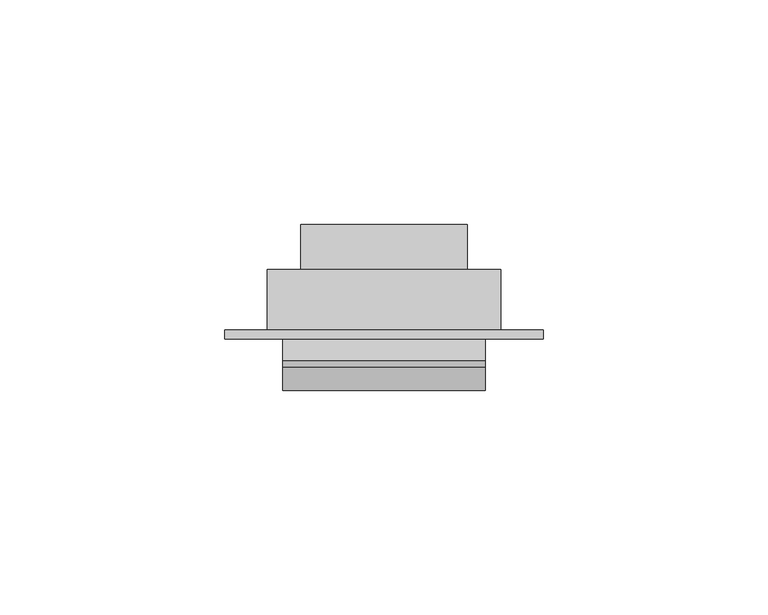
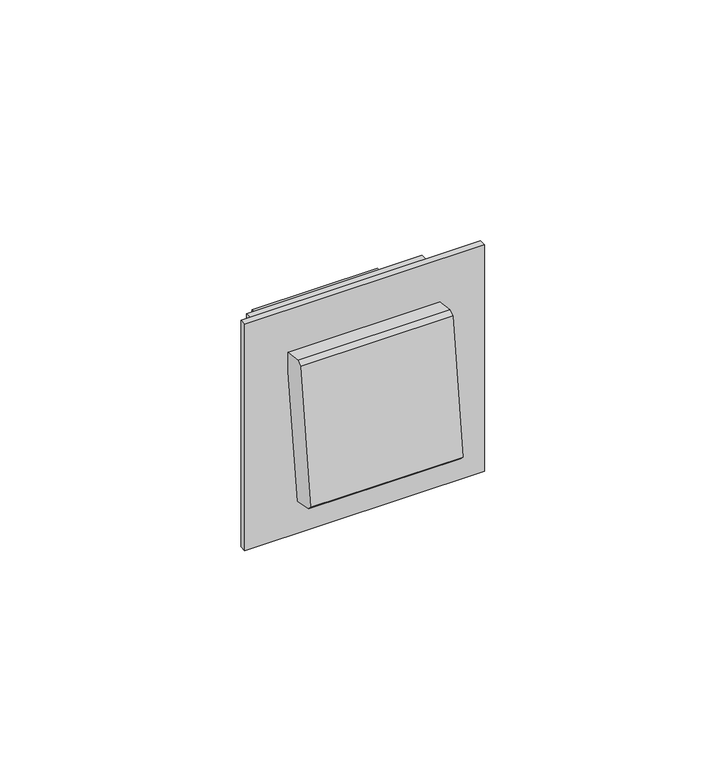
"""IFC4 building model written with IfcOpenShell, lengths in millimetres: proxy geometry."""

from ifc_helpers import new_model, si_unit, frame, origin, place, context, project, spatial, polyline, outline, extrude, faceted_brep, source, transform, mapped, element, save


def electrical_fixtures_08b576f3(model_context):
    return source(origin(), model_context, "Body", "SolidModel", [
        extrude(outline(polyline([(-46.907742, -20.7286385), (-48.1, -19.5363805), (-42.9449262, 21.5328885), (-41.5637479, 22.5), (-35.7515369, 21.7704429), (-41.2121425, -21.7329264), (-46.907742, -20.7286385)])), frame((-22.5, 0.0, 0.0), z_axis=(1.0, 0.0, 0.0), x_axis=(0.0, 1.0, 0.0)), (0.0, 0.0, 1.0), 45.0),
        faceted_brep([(35.45, -34.7, -35.45), (-35.45, -34.7, -35.45), (-35.45, -34.7, 35.45), (35.45, -34.7, 35.45), (-26.0, -34.7, -26.0), (26.0, -34.7, -26.0), (26.0, -34.7, 26.0), (-26.0, -34.7, 26.0), (35.45, -36.7, -35.45), (35.45, -36.7, 35.45), (-35.45, -36.7, 35.45), (-35.45, -36.7, -35.45), (26.0, -21.2, -26.0), (-26.0, -21.2, -26.0), (-26.0, -21.2, 26.0), (26.0, -21.2, 26.0), (-18.5, -21.2, -18.5), (18.5, -21.2, -18.5), (18.5, -21.2, 18.5), (-18.5, -21.2, 18.5), (18.5, -11.2, -18.5), (-18.5, -11.2, -18.5), (-18.5, -11.2, 18.5), (18.5, -11.2, 18.5)], [[[0, 1, 2, 3], [4, 5, 6, 7]], [[8, 9, 10, 11]], [[1, 0, 8, 11]], [[2, 1, 11, 10]], [[3, 2, 10, 9]], [[0, 3, 9, 8]], [[12, 13, 14, 15], [16, 17, 18, 19]], [[13, 12, 5, 4]], [[14, 13, 4, 7]], [[15, 14, 7, 6]], [[12, 15, 6, 5]], [[20, 21, 22, 23]], [[21, 20, 17, 16]], [[22, 21, 16, 19]], [[23, 22, 19, 18]], [[20, 23, 18, 17]]]),
    ])


if __name__ == "__main__":
    model = new_model("IFC4")
    model_context = context("Model", 3, world=origin())
    ifc_project = project(units=[si_unit("LENGTHUNIT", "METRE", prefix="MILLI")], contexts=[model_context])
    site = spatial("IfcSite", under=ifc_project)
    building = spatial("IfcBuilding", under=site)
    placement = place(None, origin())
    electrical_fixtures_shape = electrical_fixtures_08b576f3(model_context)
    element("IfcBuildingElementProxy", 1, Name="Electrical Fixtures", at=placement, inside=building, context=model_context, shape_type="MappedRepresentation", body=[
        mapped(electrical_fixtures_shape, transform((0.0, 0.0, 0.0), x_axis=(1.0, 0.0, 0.0), y_axis=(0.0, 1.0, 0.0), z_axis=(0.0, 0.0, 1.0))),
    ])
    save(model, "model.ifc")
